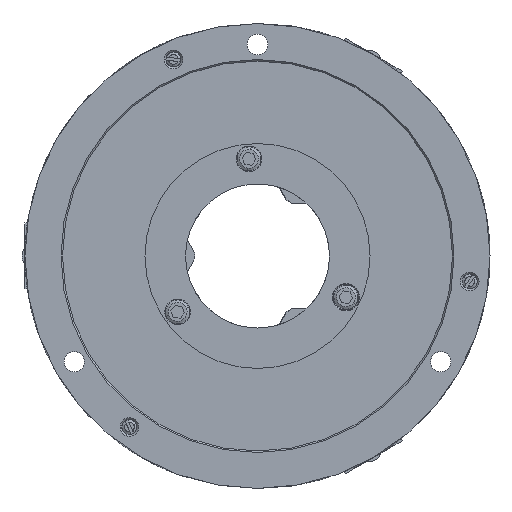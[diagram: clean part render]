
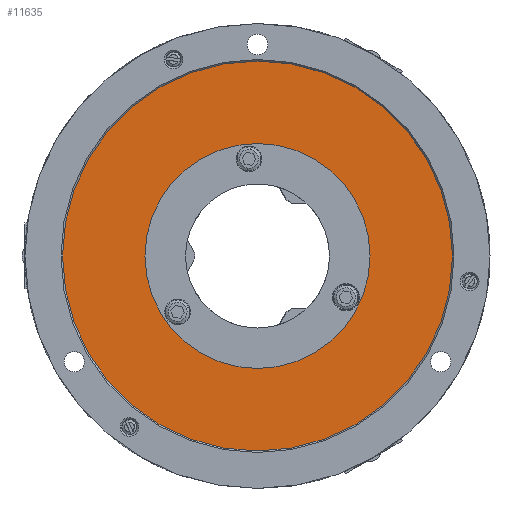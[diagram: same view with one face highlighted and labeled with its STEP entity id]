
A CAD part, left-side view. The second image highlights one B-rep face of the part: STEP entity #11635.
In plain terms, the highlighted planar face has unit normal (-1, 0, 0).
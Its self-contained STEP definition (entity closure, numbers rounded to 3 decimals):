
#634 = FACE_BOUND ( 'NONE', #2548, .T. ) ;
#895 = CARTESIAN_POINT ( 'NONE',  ( -89., 0., 130. ) ) ;
#1017 = DIRECTION ( 'NONE',  ( 0., 0., -1. ) ) ;
#1502 = CARTESIAN_POINT ( 'NONE',  ( -89., 0., 0. ) ) ;
#1667 = EDGE_LOOP ( 'NONE', ( #13151, #14808 ) ) ;
#1927 = DIRECTION ( 'NONE',  ( 0., 0., 1. ) ) ;
#2125 = DIRECTION ( 'NONE',  ( 1., 0., 0. ) ) ;
#2149 = CARTESIAN_POINT ( 'NONE',  ( -89., 0., 0. ) ) ;
#2548 = EDGE_LOOP ( 'NONE', ( #4200, #13788 ) ) ;
#3084 = VERTEX_POINT ( 'NONE', #7207 ) ;
#3128 = DIRECTION ( 'NONE',  ( -1., 0., 0. ) ) ;
#3287 = VERTEX_POINT ( 'NONE', #14678 ) ;
#3328 = DIRECTION ( 'NONE',  ( 0., 0., -1. ) ) ;
#4115 = FACE_OUTER_BOUND ( 'NONE', #1667, .T. ) ;
#4200 = ORIENTED_EDGE ( 'NONE', *, *, #9931, .T. ) ;
#4273 = EDGE_CURVE ( 'NONE', #6453, #3084, #10053, .T. ) ;
#4748 = EDGE_CURVE ( 'NONE', #9073, #3287, #12377, .T. ) ;
#4817 = DIRECTION ( 'NONE',  ( 0., 0., -1. ) ) ;
#5381 = AXIS2_PLACEMENT_3D ( 'NONE', #5743, #2125, #12469 ) ;
#5455 = AXIS2_PLACEMENT_3D ( 'NONE', #1502, #8442, #4817 ) ;
#5743 = CARTESIAN_POINT ( 'NONE',  ( -89., 0., 0. ) ) ;
#5976 = CIRCLE ( 'NONE', #9839, 75. ) ;
#6450 = CARTESIAN_POINT ( 'NONE',  ( -89., 65., -112.583 ) ) ;
#6453 = VERTEX_POINT ( 'NONE', #9502 ) ;
#6752 = DIRECTION ( 'NONE',  ( 1., 0., 0. ) ) ;
#7207 = CARTESIAN_POINT ( 'NONE',  ( -89., 0., -75. ) ) ;
#7337 = EDGE_CURVE ( 'NONE', #3287, #9073, #12532, .T. ) ;
#7857 = DIRECTION ( 'NONE',  ( 1., 0., 0. ) ) ;
#7949 = AXIS2_PLACEMENT_3D ( 'NONE', #10291, #7857, #3328 ) ;
#8442 = DIRECTION ( 'NONE',  ( 1., 0., 0. ) ) ;
#9073 = VERTEX_POINT ( 'NONE', #895 ) ;
#9502 = CARTESIAN_POINT ( 'NONE',  ( -89., 0., 75. ) ) ;
#9839 = AXIS2_PLACEMENT_3D ( 'NONE', #2149, #6752, #1017 ) ;
#9931 = EDGE_CURVE ( 'NONE', #3084, #6453, #5976, .T. ) ;
#10053 = CIRCLE ( 'NONE', #5455, 75. ) ;
#10291 = CARTESIAN_POINT ( 'NONE',  ( -89., 0., 0. ) ) ;
#11635 = ADVANCED_FACE ( 'NONE', ( #634, #4115 ), #13485, .T. ) ;
#12377 = CIRCLE ( 'NONE', #5381, 130. ) ;
#12469 = DIRECTION ( 'NONE',  ( 0., 0., -1. ) ) ;
#12532 = CIRCLE ( 'NONE', #7949, 130. ) ;
#13151 = ORIENTED_EDGE ( 'NONE', *, *, #7337, .F. ) ;
#13485 = PLANE ( 'NONE',  #14713 ) ;
#13788 = ORIENTED_EDGE ( 'NONE', *, *, #4273, .T. ) ;
#14678 = CARTESIAN_POINT ( 'NONE',  ( -89., 0., -130. ) ) ;
#14713 = AXIS2_PLACEMENT_3D ( 'NONE', #6450, #3128, #1927 ) ;
#14808 = ORIENTED_EDGE ( 'NONE', *, *, #4748, .F. ) ;
